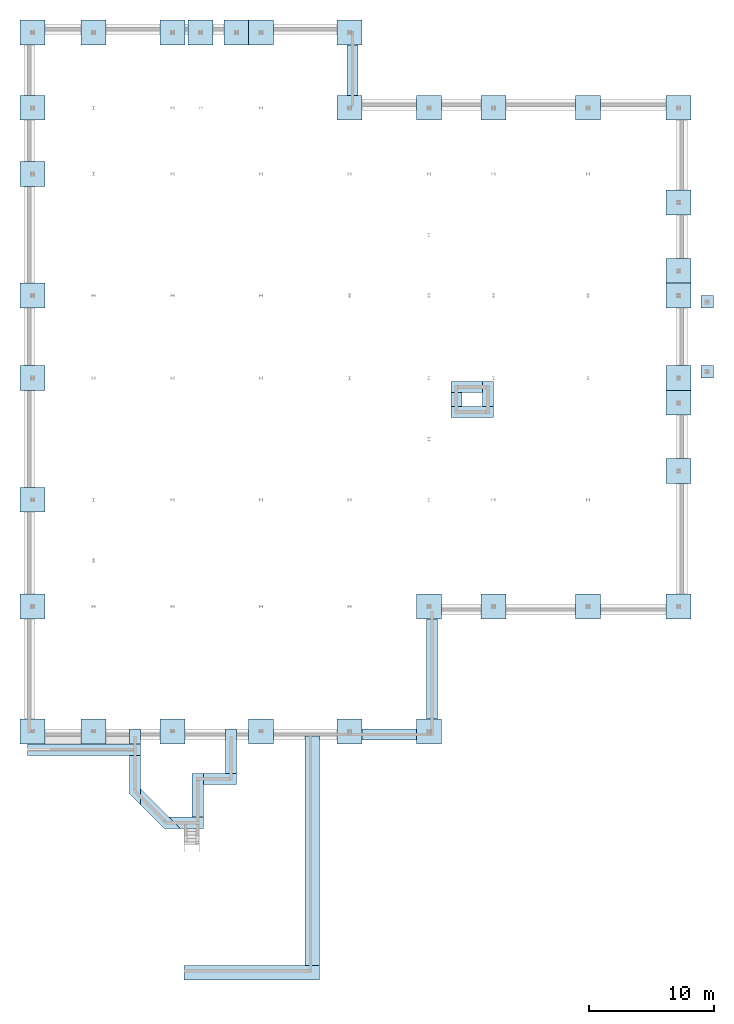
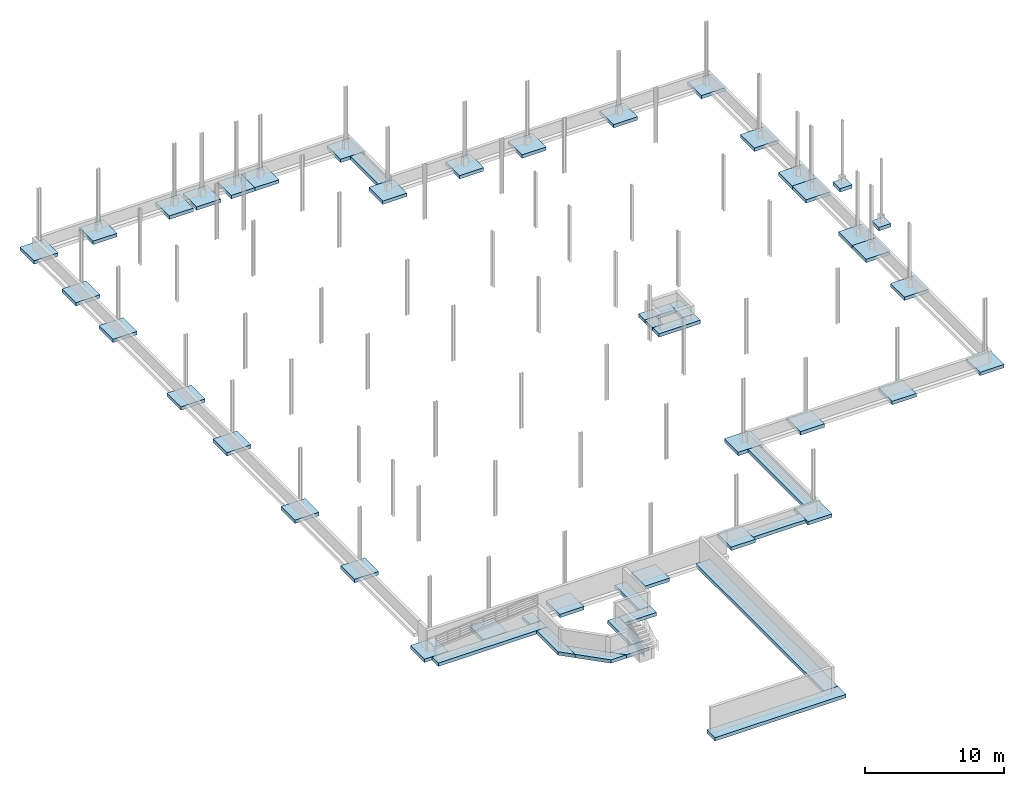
# One storey, part 1 of 11: 52 footings.
"""IFC2X3 building model written with IfcOpenShell, lengths in metres."""

from ifc_helpers import new_model, entity, si_unit, converted_unit, frame, frame_2d, origin, origin_2d_with_axis, place, context, project, spatial, polyline, rectangle, outline, extrude, face_set, surface_model, element, save


model = new_model("IFC2X3")

# Units and contexts
model_context = context("Model", 3, precision=1e-09, world=origin())
plan_context = context("Plan", 3, precision=1e-09, world=origin())
ifc_project = project(units=[si_unit("LENGTHUNIT", "METRE"), si_unit("AREAUNIT", "SQUARE_METRE"), si_unit("VOLUMEUNIT", "CUBIC_METRE"), converted_unit("PLANEANGLEUNIT", "DEGREE", entity("IfcRatioMeasure", 0.01745329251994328), si_unit("PLANEANGLEUNIT", "RADIAN"), dimensions=[0, 0, 0, 0, 0, 0, 0]), si_unit("TIMEUNIT", "SECOND")], contexts=[model_context, plan_context])

# Site, building, storey
site_placement = place(None, origin())
site = spatial("IfcSite", under=ifc_project, at=site_placement, Name="Default", CompositionType="ELEMENT")
building_placement = place(site_placement, origin())
building = spatial("IfcBuilding", under=site, at=building_placement, CompositionType="ELEMENT")
storey_placement = place(building_placement, frame((0.0, 0.0, -1.0)))
storey = spatial("IfcBuildingStorey", under=building, at=storey_placement, Name="TOF Footing", CompositionType="ELEMENT", Elevation=-1.000000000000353)

# Footings
footing_1_placement = place(storey_placement, origin())
element("IfcFooting", 1, at=footing_1_placement, inside=storey, Name="Wall Foundation:Bearing Footing - 900 x 300", ObjectType="Wall Foundation:Bearing Footing - 900 x 300", PredefinedType="STRIP_FOOTING", context=model_context, shape_type="SweptSolid", body=[
    extrude(rectangle(XDim=4.050000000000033, YDim=0.899999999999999, at=origin_2d_with_axis()), frame((-26.19200000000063, 53.11500000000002, -0.299999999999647), z_axis=(0.0, 0.0, 1.0), x_axis=(0.0, 1.0, 0.0)), (0.0, 0.0, 1.0), 0.3000000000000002),
])
footing_2_placement = place(storey_placement, origin())
element("IfcFooting", 2, at=footing_2_placement, inside=storey, Name="Wall Foundation:Bearing Footing - 900 x 300", ObjectType="Wall Foundation:Bearing Footing - 900 x 300", PredefinedType="STRIP_FOOTING", context=model_context, shape_type="SweptSolid", body=[
    extrude(rectangle(XDim=3.435200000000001, YDim=0.899999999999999, at=frame_2d((0.0, 0.1499999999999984), x_axis=(1.0, 0.0))), frame((-16.58760000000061, 25.80739999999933, -0.6691999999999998), z_axis=(0.0, 0.0, 1.0), x_axis=(-1.0, 0.0, 0.0)), (0.0, 0.0, 1.0), 0.3),
])
footing_3_placement = place(storey_placement, origin())
element("IfcFooting", 3, at=footing_3_placement, inside=storey, Name="Wall Foundation:Bearing Footing - 900 x 300", ObjectType="Wall Foundation:Bearing Footing - 900 x 300", PredefinedType="STRIP_FOOTING", context=model_context, shape_type="SweptSolid", body=[
    extrude(rectangle(XDim=2.535200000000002, YDim=0.899999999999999, at=frame_2d((0.0735199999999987, 0.089999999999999), x_axis=(1.0, 0.0))), frame((-17.11112000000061, 27.58189999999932, -0.6692)), (0.0, 0.0, 1.0), 0.3),
])
footing_4_placement = place(storey_placement, origin())
element("IfcFooting", 4, at=footing_4_placement, inside=storey, Name="Wall Foundation:Bearing Footing - 900 x 300", ObjectType="Wall Foundation:Bearing Footing - 900 x 300", PredefinedType="STRIP_FOOTING", context=model_context, shape_type="SweptSolid", body=[
    extrude(rectangle(XDim=2.014500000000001, YDim=0.9000000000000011, at=frame_2d((0.02144999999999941, 0.09000000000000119), x_axis=(1.0, 0.0))), frame((-15.41000000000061, 27.13609999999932, -0.6692), z_axis=(0.0, 0.0, 1.0), x_axis=(0.0, -1.0, 0.0)), (0.0, 0.0, 1.0), 0.3),
])
footing_5_placement = place(storey_placement, origin())
element("IfcFooting", 5, at=footing_5_placement, inside=storey, Name="Wall Foundation:Bearing Footing - 900 x 300", ObjectType="Wall Foundation:Bearing Footing - 900 x 300", PredefinedType="STRIP_FOOTING", context=model_context, shape_type="SweptSolid", body=[
    extrude(rectangle(XDim=4.380000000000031, YDim=0.9, at=origin_2d_with_axis()), frame((-23.25000000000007, -0.2480000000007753, -0.299999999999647)), (0.0, 0.0, 1.0), 0.3000000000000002),
])
footing_6_placement = place(storey_placement, origin())
element("IfcFooting", 6, at=footing_6_placement, inside=storey, Name="Wall Foundation:Bearing Footing - 900 x 300", ObjectType="Wall Foundation:Bearing Footing - 900 x 300", PredefinedType="STRIP_FOOTING", context=model_context, shape_type="SweptSolid", body=[
    extrude(rectangle(XDim=8.039999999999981, YDim=0.8999999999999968, at=origin_2d_with_axis()), frame((-19.81200000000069, 5.019999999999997, -0.299999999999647), z_axis=(0.0, 0.0, 1.0), x_axis=(0.0, 1.0, 0.0)), (0.0, 0.0, 1.0), 0.3000000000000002),
])
footing_7_placement = place(storey_placement, origin())
element("IfcFooting", 7, at=footing_7_placement, inside=storey, Name="Wall Foundation:Bearing Footing - 900 x 300", ObjectType="Wall Foundation:Bearing Footing - 900 x 300", PredefinedType="STRIP_FOOTING", context=model_context, shape_type="SweptSolid", body=[
    extrude(rectangle(XDim=1.114499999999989, YDim=0.899999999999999, at=origin_2d_with_axis()), frame((-17.85520000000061, 26.66464999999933, -0.6692), z_axis=(0.0, 0.0, 1.0), x_axis=(0.0, 1.0, 0.0)), (0.0, 0.0, 1.0), 0.3),
])
footing_8_placement = place(storey_placement, origin())
element("IfcFooting", 8, at=footing_8_placement, inside=storey, Name="Wall Foundation:Bearing Footing - 900 x 300", ObjectType="Wall Foundation:Bearing Footing - 900 x 300", PredefinedType="STRIP_FOOTING", context=model_context, shape_type="SweptSolid", body=[
    extrude(outline(polyline([(-1.974055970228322, -1.464939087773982), (-0.7012637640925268, -1.464939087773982), (1.191773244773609, 0.428097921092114), (1.191773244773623, 1.70089012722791), (0.2917732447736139, 0.8008901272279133), (-1.974055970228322, -1.464939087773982)])), frame((-41.7534609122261, -6.582983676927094, -1.215), z_axis=(0.0, 0.0, 1.0), x_axis=(0.0, -1.0, 0.0)), (0.0, 0.0, 1.0), 0.2999999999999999),
])
footing_9_placement = place(storey_placement, origin())
element("IfcFooting", 9, at=footing_9_placement, inside=storey, Name="Wall Foundation:Bearing Footing - 900 x 300", ObjectType="Wall Foundation:Bearing Footing - 900 x 300", PredefinedType="STRIP_FOOTING", context=model_context, shape_type="SweptSolid", body=[
    extrude(rectangle(XDim=9.061599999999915, YDim=0.9000000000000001, at=frame_2d((1.210266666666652, 0.0), x_axis=(1.0, 0.0))), frame((-46.53893333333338, -1.467999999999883, -1.215), z_axis=(0.0, 0.0, 1.0), x_axis=(-1.0, 0.0, 0.0)), (0.0, 0.0, 1.0), 0.3),
])
footing_10_placement = place(storey_placement, origin())
element("IfcFooting", 10, at=footing_10_placement, inside=storey, Name="Wall Foundation:Bearing Footing - 900 x 300", ObjectType="Wall Foundation:Bearing Footing - 900 x 300", PredefinedType="STRIP_FOOTING", context=model_context, shape_type="SweptSolid", body=[
    extrude(outline(polyline([(-1.434440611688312, -0.9253237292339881), (-0.1616484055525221, -0.9253237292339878), (1.168425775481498, 0.4047504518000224), (0.5320296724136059, 1.041146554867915), (-0.1043664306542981, 0.4047504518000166), (-1.434440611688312, -0.9253237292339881)])), frame((-39.28396541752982, -7.234756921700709, -1.215), z_axis=(0.0, 0.0, 1.0), x_axis=(0.7071067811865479, -0.7071067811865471, 0.0)), (0.0, 0.0, 1.0), 0.3),
])
footing_11_placement = place(storey_placement, frame((-44.11840000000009, -5.881719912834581, -1.215)))
element("IfcFooting", 11, at=footing_11_placement, inside=storey, Name="Wall Foundation:Bearing Footing - 900 x 300", ObjectType="Wall Foundation:Bearing Footing - 900 x 300", PredefinedType="STRIP_FOOTING", context=model_context, shape_type="SurfaceModel", body=[
    surface_model("IfcFaceBasedSurfaceModel", [(0.0, 0.9000000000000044, 0.3000000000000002), (0.9000000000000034, 0.0, 0.3000000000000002), (0.9000000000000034, 1.272792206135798, 0.3000000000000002), (0.900000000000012, 3.963719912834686, 0.3000000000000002), (0.0, 3.963719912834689, 0.3000000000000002), (0.900000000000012, 6.08371991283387, 0.3000000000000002), (0.0, 6.083719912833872, 0.3000000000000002), (0.0, 5.183719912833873, 0.3000000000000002), (0.0, 4.86371991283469, 0.3000000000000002), (0.900000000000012, 4.863719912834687, 0.3000000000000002), (0.900000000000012, 5.18371991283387, 0.3000000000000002), (0.0, 0.9000000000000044, 0.0), (0.0, 3.963719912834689, 0.0), (0.0, 4.86371991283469, 0.0), (0.0, 5.183719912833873, 0.0), (0.0, 6.083719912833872, 0.0), (0.9000000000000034, 0.0, 0.0), (0.9000000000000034, 1.272792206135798, 0.0), (0.900000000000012, 3.963719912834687, 0.0), (0.900000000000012, 4.863719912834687, 0.0), (0.900000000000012, 5.18371991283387, 0.0), (0.900000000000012, 6.08371991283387, 0.0)], [face_set([[[0, 1, 2, 3, 4]], [[5, 6, 7, 8, 9, 10]], [[11, 12, 4, 0]], [[6, 7, 8, 13, 14, 15]], [[16, 17, 18, 12, 11]], [[15, 14, 13, 19, 20, 21]], [[1, 16, 17, 18, 3, 2]], [[21, 5, 10, 9, 19, 20]], [[4, 3, 18, 12]], [[9, 19, 13, 8]], [[1, 16, 11, 0]], [[6, 5, 21, 15]]])]),
])
footing_12_placement = place(storey_placement, origin())
element("IfcFooting", 12, at=footing_12_placement, inside=storey, Name="Wall Foundation:Bearing Footing - 900 x 300", ObjectType="Wall Foundation:Bearing Footing - 900 x 300", PredefinedType="STRIP_FOOTING", context=model_context, shape_type="SweptSolid", body=[
    extrude(rectangle(XDim=2.660000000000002, YDim=0.9000000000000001, at=frame_2d((0.08599999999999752, 0.09000000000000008), x_axis=(1.0, 0.0))), frame((-36.75556183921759, -3.717999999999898, -1.215), z_axis=(0.0, 0.0, 1.0), x_axis=(-1.0, 0.0, 0.0)), (0.0, 0.0, 1.0), 0.3),
])
footing_13_placement = place(storey_placement, origin())
element("IfcFooting", 13, at=footing_13_placement, inside=storey, Name="Wall Foundation:Bearing Footing - 900 x 300", ObjectType="Wall Foundation:Bearing Footing - 900 x 300", PredefinedType="STRIP_FOOTING", context=model_context, shape_type="SweptSolid", body=[
    extrude(rectangle(XDim=3.516756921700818, YDim=0.899999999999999, at=frame_2d((0.1716756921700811, -0.0900000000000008), x_axis=(1.0, 0.0))), frame((-38.5315618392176, -4.94470276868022, -1.215), z_axis=(0.0, 0.0, 1.0), x_axis=(0.0, -1.0, 0.0)), (0.0, 0.0, 1.0), 0.3),
])
footing_14_placement = place(storey_placement, origin())
element("IfcFooting", 14, at=footing_14_placement, inside=storey, Name="Wall Foundation:Bearing Footing - 900 x 300", ObjectType="Wall Foundation:Bearing Footing - 900 x 300", PredefinedType="STRIP_FOOTING", context=model_context, shape_type="SweptSolid", body=[
    extrude(rectangle(XDim=3.559999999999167, YDim=0.899999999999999, at=frame_2d((0.2933333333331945, 0.0), x_axis=(1.0, 0.0))), frame((-35.9615618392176, -1.284666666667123, -1.215), z_axis=(0.0, 0.0, 1.0), x_axis=(0.0, -1.0, 0.0)), (0.0, 0.0, 1.0), 0.3),
])
footing_15_placement = place(storey_placement, origin())
element("IfcFooting", 15, at=footing_15_placement, inside=storey, Name="M_Footing-Rectangular:2000 x 2000 x 300mm:2000 x 2000 x 300mm", ObjectType="M_Footing-Rectangular:2000 x 2000 x 300mm", PredefinedType="NOTDEFINED", context=model_context, shape_type="SweptSolid", body=[
    extrude(rectangle(XDim=1.999999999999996, YDim=1.999999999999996, at=frame_2d((-0.1240000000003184, 0.0), x_axis=(1.0, 0.0))), frame((-52.0240000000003, 50.09000000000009, -0.3), z_axis=(0.0, 0.0, 1.0), x_axis=(-1.0, 0.0, 0.0)), (0.0, 0.0, 1.0), 0.3),
])
footing_16_placement = place(storey_placement, origin())
element("IfcFooting", 16, at=footing_16_placement, inside=storey, Name="M_Footing-Rectangular:2000 x 2000 x 300mm:2000 x 2000 x 300mm", ObjectType="M_Footing-Rectangular:2000 x 2000 x 300mm", PredefinedType="NOTDEFINED", context=model_context, shape_type="SweptSolid", body=[
    extrude(rectangle(XDim=1.999999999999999, YDim=1.999999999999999, at=frame_2d((-0.1880000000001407, 0.1879999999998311), x_axis=(1.0, 0.0))), frame((-0.1880000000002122, 10.22799999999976, -0.3), z_axis=(0.0, 0.0, 1.0), x_axis=(-1.0, 0.0, 0.0)), (0.0, 0.0, 1.0), 0.3),
])
footing_17_placement = place(storey_placement, origin())
element("IfcFooting", 17, at=footing_17_placement, inside=storey, Name="M_Footing-Rectangular:2000 x 2000 x 300mm:2000 x 2000 x 300mm", ObjectType="M_Footing-Rectangular:2000 x 2000 x 300mm", PredefinedType="NOTDEFINED", context=model_context, shape_type="SweptSolid", body=[
    extrude(rectangle(XDim=1.999999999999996, YDim=2.0, at=frame_2d((-0.1240000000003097, 0.0), x_axis=(1.0, 0.0))), frame((-52.02400000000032, 35.00999999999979, -0.3), z_axis=(0.0, 0.0, 1.0), x_axis=(-1.0, 0.0, 0.0)), (0.0, 0.0, 1.0), 0.3),
])
footing_18_placement = place(storey_placement, origin())
element("IfcFooting", 18, at=footing_18_placement, inside=storey, Name="Wall Foundation:Retaining Footing - 600 x 300 x 300", ObjectType="Wall Foundation:Retaining Footing - 600 x 300 x 300", PredefinedType="STRIP_FOOTING", context=model_context, shape_type="SweptSolid", body=[
    extrude(rectangle(XDim=10.89500000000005, YDim=1.164000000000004, at=frame_2d((0.8566999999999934, 0.1164000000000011), x_axis=(1.0, 0.0))), frame((-33.4353618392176, -19.26110302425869, -1.215), z_axis=(0.0, 0.0, 1.0), x_axis=(-1.0, 0.0, 0.0)), (0.0, 0.0, 1.0), 0.3),
])
footing_19_placement = place(storey_placement, origin())
element("IfcFooting", 19, at=footing_19_placement, inside=storey, Name="M_Footing-Rectangular:2000 x 2000 x 300mm:2000 x 2000 x 300mm", ObjectType="M_Footing-Rectangular:2000 x 2000 x 300mm", PredefinedType="NOTDEFINED", context=model_context, shape_type="SweptSolid", body=[
    extrude(rectangle(XDim=1.999999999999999, YDim=1.999999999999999, at=frame_2d((0.0, -0.1240000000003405), x_axis=(1.0, 0.0))), frame((-7.280000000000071, 9.915999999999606, -0.3), z_axis=(0.0, 0.0, 1.0), x_axis=(-1.0, 0.0, 0.0)), (0.0, 0.0, 1.0), 0.3),
])
footing_20_placement = place(storey_placement, origin())
element("IfcFooting", 20, at=footing_20_placement, inside=storey, Name="M_Footing-Rectangular:2000 x 2000 x 300mm:2000 x 2000 x 300mm", ObjectType="M_Footing-Rectangular:2000 x 2000 x 300mm", PredefinedType="NOTDEFINED", context=model_context, shape_type="SweptSolid", body=[
    extrude(rectangle(XDim=1.999999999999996, YDim=1.999999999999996, at=frame_2d((0.0, 0.123999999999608), x_axis=(1.0, 0.0))), frame((-47.0, 56.26399999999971, -0.3), z_axis=(0.0, 0.0, 1.0), x_axis=(-1.0, 0.0, 0.0)), (0.0, 0.0, 1.0), 0.3),
])
footing_21_placement = place(storey_placement, origin())
element("IfcFooting", 21, at=footing_21_placement, inside=storey, Name="M_Footing-Rectangular:2000 x 2000 x 300mm:2000 x 2000 x 300mm", ObjectType="M_Footing-Rectangular:2000 x 2000 x 300mm", PredefinedType="NOTDEFINED", context=model_context, shape_type="SweptSolid", body=[
    extrude(rectangle(XDim=1.999999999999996, YDim=1.999999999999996, at=frame_2d((-0.1240000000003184, 0.0), x_axis=(1.0, 0.0))), frame((-52.02400000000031, 44.78000000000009, -0.3), z_axis=(0.0, 0.0, 1.0), x_axis=(-1.0, 0.0, 0.0)), (0.0, 0.0, 1.0), 0.3),
])
footing_22_placement = place(storey_placement, origin())
element("IfcFooting", 22, at=footing_22_placement, inside=storey, Name="M_Footing-Rectangular:2000 x 2000 x 300mm:2000 x 2000 x 300mm", ObjectType="M_Footing-Rectangular:2000 x 2000 x 300mm", PredefinedType="NOTDEFINED", context=model_context, shape_type="SweptSolid", body=[
    extrude(rectangle(XDim=2.0, YDim=1.999999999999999, at=frame_2d((0.0, -0.1240000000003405), x_axis=(1.0, 0.0))), frame((-14.87997499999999, 9.91599999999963, -0.3), z_axis=(0.0, 0.0, 1.0), x_axis=(-1.0, 0.0, 0.0)), (0.0, 0.0, 1.0), 0.3),
])
footing_23_placement = place(storey_placement, origin())
element("IfcFooting", 23, at=footing_23_placement, inside=storey, Name="M_Footing-Rectangular:2000 x 2000 x 300mm:2000 x 2000 x 300mm", ObjectType="M_Footing-Rectangular:2000 x 2000 x 300mm", PredefinedType="NOTDEFINED", context=model_context, shape_type="SweptSolid", body=[
    extrude(rectangle(XDim=2.0, YDim=2.0, at=frame_2d((0.0, -0.1240000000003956), x_axis=(1.0, 0.0))), frame((-33.55000000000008, -0.1240000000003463, -1.215000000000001), z_axis=(0.0, 0.0, 1.0), x_axis=(-1.0, 0.0, 0.0)), (0.0, 0.0, 1.0), 0.3),
])
footing_24_placement = place(storey_placement, origin())
element("IfcFooting", 24, at=footing_24_placement, inside=storey, Name="M_Footing-Rectangular:2000 x 2000 x 300mm:2000 x 2000 x 300mm", ObjectType="M_Footing-Rectangular:2000 x 2000 x 300mm", PredefinedType="NOTDEFINED", context=model_context, shape_type="SweptSolid", body=[
    extrude(rectangle(XDim=1.981244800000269, YDim=2.0, at=frame_2d((0.3302074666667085, -0.0826666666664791), x_axis=(1.0, 0.0))), frame((0.08266666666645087, 37.33082986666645, -0.3), z_axis=(0.0, 0.0, 1.0), x_axis=(0.0, -1.0, 0.0)), (0.0, 0.0, 1.0), 0.3),
])
footing_25_placement = place(storey_placement, origin())
element("IfcFooting", 25, at=footing_25_placement, inside=storey, Name="M_Footing-Rectangular:2000 x 2000 x 300mm:2000 x 2000 x 300mm", ObjectType="M_Footing-Rectangular:2000 x 2000 x 300mm", PredefinedType="NOTDEFINED", context=model_context, shape_type="SweptSolid", body=[
    extrude(rectangle(XDim=1.999999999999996, YDim=1.999999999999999, at=frame_2d((-0.1240000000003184, 0.0), x_axis=(1.0, 0.0))), frame((-52.02400000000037, 10.04000000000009, -0.3), z_axis=(0.0, 0.0, 1.0), x_axis=(-1.0, 0.0, 0.0)), (0.0, 0.0, 1.0), 0.3),
])
footing_26_placement = place(storey_placement, origin())
element("IfcFooting", 26, at=footing_26_placement, inside=storey, Name="M_Footing-Rectangular:2000 x 2000 x 300mm:2000 x 2000 x 300mm", ObjectType="M_Footing-Rectangular:2000 x 2000 x 300mm", PredefinedType="NOTDEFINED", context=model_context, shape_type="SweptSolid", body=[
    extrude(rectangle(XDim=1.999999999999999, YDim=2.0, at=frame_2d((0.08266666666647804, -0.3333333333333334), x_axis=(1.0, 0.0))), frame((0.08266666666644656, 34.67666666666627, -0.3), z_axis=(0.0, 0.0, 1.0), x_axis=(-1.0, 0.0, 0.0)), (0.0, 0.0, 1.0), 0.3),
])
footing_27_placement = place(storey_placement, origin())
element("IfcFooting", 27, at=footing_27_placement, inside=storey, Name="M_Footing-Rectangular:2000 x 2000 x 300mm:2000 x 2000 x 300mm", ObjectType="M_Footing-Rectangular:2000 x 2000 x 300mm", PredefinedType="NOTDEFINED", context=model_context, shape_type="SweptSolid", body=[
    extrude(rectangle(XDim=2.0, YDim=1.999999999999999, at=frame_2d((0.3119999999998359, -0.3120000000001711), x_axis=(1.0, 0.0))), frame((-19.7480000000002, 9.727999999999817, -0.3), z_axis=(0.0, 0.0, 1.0), x_axis=(-1.0, 0.0, 0.0)), (0.0, 0.0, 1.0), 0.3),
])
footing_28_placement = place(storey_placement, origin())
element("IfcFooting", 28, at=footing_28_placement, inside=storey, Name="M_Footing-Rectangular:2000 x 2000 x 300mm:2000 x 2000 x 300mm", ObjectType="M_Footing-Rectangular:2000 x 2000 x 300mm", PredefinedType="NOTDEFINED", context=model_context, shape_type="SweptSolid", body=[
    extrude(rectangle(XDim=1.999999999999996, YDim=1.999999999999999, at=frame_2d((0.3333333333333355, -0.08266666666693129), x_axis=(1.0, 0.0))), frame((-51.56666666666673, -0.08266666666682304, -1.215), z_axis=(0.0, 0.0, 1.0), x_axis=(-1.0, 0.0, 0.0)), (0.0, 0.0, 1.0), 0.3),
])
footing_29_placement = place(storey_placement, origin())
element("IfcFooting", 29, at=footing_29_placement, inside=storey, Name="M_Footing-Rectangular:2000 x 2000 x 300mm:2000 x 2000 x 300mm", ObjectType="M_Footing-Rectangular:2000 x 2000 x 300mm", PredefinedType="NOTDEFINED", context=model_context, shape_type="SweptSolid", body=[
    extrude(rectangle(XDim=1.999999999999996, YDim=2.0, at=frame_2d((-0.124000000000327, 0.0), x_axis=(1.0, 0.0))), frame((-52.02400000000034, 28.37999999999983, -0.3), z_axis=(0.0, 0.0, 1.0), x_axis=(-1.0, 0.0, 0.0)), (0.0, 0.0, 1.0), 0.3),
])
footing_30_placement = place(storey_placement, origin())
element("IfcFooting", 30, at=footing_30_placement, inside=storey, Name="M_Footing-Rectangular:2000 x 2000 x 300mm:2000 x 2000 x 300mm", ObjectType="M_Footing-Rectangular:2000 x 2000 x 300mm", PredefinedType="NOTDEFINED", context=model_context, shape_type="SweptSolid", body=[
    extrude(rectangle(XDim=2.0, YDim=1.999999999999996, at=frame_2d((-0.1880000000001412, -0.1880000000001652), x_axis=(1.0, 0.0))), frame((-0.1880000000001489, 49.90199999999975, -0.3), z_axis=(0.0, 0.0, 1.0), x_axis=(-1.0, 0.0, 0.0)), (0.0, 0.0, 1.0), 0.3),
])
footing_31_placement = place(storey_placement, origin())
element("IfcFooting", 31, at=footing_31_placement, inside=storey, Name="M_Footing-Rectangular:2000 x 2000 x 300mm:2000 x 2000 x 300mm", ObjectType="M_Footing-Rectangular:2000 x 2000 x 300mm", PredefinedType="NOTDEFINED", context=model_context, shape_type="SweptSolid", body=[
    extrude(rectangle(XDim=1.999999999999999, YDim=2.0, at=frame_2d((0.08266666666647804, -0.3333333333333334), x_axis=(1.0, 0.0))), frame((0.08266666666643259, 26.06548246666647, -0.3), z_axis=(0.0, 0.0, 1.0), x_axis=(-1.0, 0.0, 0.0)), (0.0, 0.0, 1.0), 0.3),
])
footing_32_placement = place(storey_placement, origin())
element("IfcFooting", 32, at=footing_32_placement, inside=storey, Name="M_Footing-Rectangular:2000 x 2000 x 300mm:2000 x 2000 x 300mm", ObjectType="M_Footing-Rectangular:2000 x 2000 x 300mm", PredefinedType="NOTDEFINED", context=model_context, shape_type="SweptSolid", body=[
    extrude(rectangle(XDim=1.981184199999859, YDim=2.0, at=frame_2d((0.3301973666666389, -0.0826666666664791), x_axis=(1.0, 0.0))), frame((0.0826666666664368, 28.71960526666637, -0.3), z_axis=(0.0, 0.0, 1.0), x_axis=(0.0, -1.0, 0.0)), (0.0, 0.0, 1.0), 0.3),
])
footing_33_placement = place(storey_placement, origin())
element("IfcFooting", 33, at=footing_33_placement, inside=storey, Name="Wall Foundation:Retaining Footing - 600 x 300 x 300", ObjectType="Wall Foundation:Retaining Footing - 600 x 300 x 300", PredefinedType="STRIP_FOOTING", context=model_context, shape_type="SweptSolid", body=[
    extrude(rectangle(XDim=18.41550302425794, YDim=1.164, at=frame_2d((2.963250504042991, 0.0), x_axis=(1.0, 0.0))), frame((-29.42656183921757, -6.624501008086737, -1.215), z_axis=(0.0, 0.0, 1.0), x_axis=(0.0, -1.0, 0.0)), (0.0, 0.0, 1.0), 0.3),
])
footing_34_placement = place(storey_placement, origin())
element("IfcFooting", 34, at=footing_34_placement, inside=storey, Name="M_Footing-Rectangular:2000 x 2000 x 300mm:2000 x 2000 x 300mm", ObjectType="M_Footing-Rectangular:2000 x 2000 x 300mm", PredefinedType="NOTDEFINED", context=model_context, shape_type="SweptSolid", body=[
    extrude(rectangle(XDim=2.0, YDim=1.999999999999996, at=frame_2d((0.3333333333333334, 0.08266666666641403), x_axis=(1.0, 0.0))), frame((-33.21666666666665, 56.22266666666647, -0.3), z_axis=(0.0, 0.0, 1.0), x_axis=(-1.0, 0.0, 0.0)), (0.0, 0.0, 1.0), 0.3),
])
footing_35_placement = place(storey_placement, origin())
element("IfcFooting", 35, at=footing_35_placement, inside=storey, Name="M_Footing-Rectangular:2000 x 2000 x 300mm:2000 x 2000 x 300mm", ObjectType="M_Footing-Rectangular:2000 x 2000 x 300mm", PredefinedType="NOTDEFINED", context=model_context, shape_type="SweptSolid", body=[
    extrude(rectangle(XDim=1.999999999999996, YDim=1.999999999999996, at=frame_2d((0.187999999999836, -0.1880000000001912), x_axis=(1.0, 0.0))), frame((-51.71200000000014, 55.95199999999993, -0.3), z_axis=(0.0, 0.0, 1.0), x_axis=(-1.0, 0.0, 0.0)), (0.0, 0.0, 1.0), 0.3),
])
footing_36_placement = place(storey_placement, origin())
element("IfcFooting", 36, at=footing_36_placement, inside=storey, Name="M_Footing-Rectangular:2000 x 2000 x 300mm:2000 x 2000 x 300mm", ObjectType="M_Footing-Rectangular:2000 x 2000 x 300mm", PredefinedType="NOTDEFINED", context=model_context, shape_type="SweptSolid", body=[
    extrude(rectangle(XDim=1.999999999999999, YDim=2.0, at=frame_2d((0.1239999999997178, 0.0), x_axis=(1.0, 0.0))), frame((0.1239999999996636, 20.90889399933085, -0.3), z_axis=(0.0, 0.0, 1.0), x_axis=(-1.0, 0.0, 0.0)), (0.0, 0.0, 1.0), 0.3),
])
footing_37_placement = place(storey_placement, origin())
element("IfcFooting", 37, at=footing_37_placement, inside=storey, Name="M_Footing-Rectangular:2000 x 2000 x 300mm:2000 x 2000 x 300mm", ObjectType="M_Footing-Rectangular:2000 x 2000 x 300mm", PredefinedType="NOTDEFINED", context=model_context, shape_type="SweptSolid", body=[
    extrude(rectangle(XDim=1.999999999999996, YDim=2.0, at=frame_2d((-0.1240000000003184, 0.0), x_axis=(1.0, 0.0))), frame((-52.02400000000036, 18.61000000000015, -0.3), z_axis=(0.0, 0.0, 1.0), x_axis=(-1.0, 0.0, 0.0)), (0.0, 0.0, 1.0), 0.3),
])
footing_38_placement = place(storey_placement, origin())
element("IfcFooting", 38, at=footing_38_placement, inside=storey, Name="M_Footing-Rectangular:2000 x 2000 x 300mm:2000 x 2000 x 300mm", ObjectType="M_Footing-Rectangular:2000 x 2000 x 300mm", PredefinedType="NOTDEFINED", context=model_context, shape_type="SweptSolid", body=[
    extrude(rectangle(XDim=2.0, YDim=1.999999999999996, at=frame_2d((0.0, 0.1239999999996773), x_axis=(1.0, 0.0))), frame((-14.87997499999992, 50.21399999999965, -0.3), z_axis=(0.0, 0.0, 1.0), x_axis=(-1.0, 0.0, 0.0)), (0.0, 0.0, 1.0), 0.3),
])
footing_39_placement = place(storey_placement, origin())
element("IfcFooting", 39, at=footing_39_placement, inside=storey, Name="M_Footing-Rectangular:2000 x 2000 x 300mm:2000 x 2000 x 300mm", ObjectType="M_Footing-Rectangular:2000 x 2000 x 300mm", PredefinedType="NOTDEFINED", context=model_context, shape_type="SweptSolid", body=[
    extrude(rectangle(XDim=1.999999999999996, YDim=1.999999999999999, at=frame_2d((0.0, -0.1240000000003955), x_axis=(1.0, 0.0))), frame((-47.0, -0.1240000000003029, -1.215000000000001), z_axis=(0.0, 0.0, 1.0), x_axis=(-1.0, 0.0, 0.0)), (0.0, 0.0, 1.0), 0.3),
])
footing_40_placement = place(storey_placement, origin())
element("IfcFooting", 40, at=footing_40_placement, inside=storey, Name="M_Footing-Rectangular:2000 x 2000 x 300mm:2000 x 2000 x 300mm", ObjectType="M_Footing-Rectangular:2000 x 2000 x 300mm", PredefinedType="NOTDEFINED", context=model_context, shape_type="SweptSolid", body=[
    extrude(rectangle(XDim=1.999999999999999, YDim=1.999999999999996, at=frame_2d((0.1239999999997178, 0.0), x_axis=(1.0, 0.0))), frame((0.1239999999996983, 42.47764480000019, -0.3), z_axis=(0.0, 0.0, 1.0), x_axis=(-1.0, 0.0, 0.0)), (0.0, 0.0, 1.0), 0.3),
])
footing_41_placement = place(storey_placement, origin())
element("IfcFooting", 41, at=footing_41_placement, inside=storey, Name="M_Footing-Rectangular:2000 x 2000 x 300mm:2000 x 2000 x 300mm", ObjectType="M_Footing-Rectangular:2000 x 2000 x 300mm", PredefinedType="NOTDEFINED", context=model_context, shape_type="SweptSolid", body=[
    extrude(rectangle(XDim=2.0, YDim=2.0, at=frame_2d((-0.188000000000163, 0.1879999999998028), x_axis=(1.0, 0.0))), frame((-20.24800000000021, 0.1879999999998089, -0.3), z_axis=(0.0, 0.0, 1.0), x_axis=(-1.0, 0.0, 0.0)), (0.0, 0.0, 1.0), 0.3),
])
footing_42_placement = place(storey_placement, origin())
element("IfcFooting", 42, at=footing_42_placement, inside=storey, Name="M_Footing-Rectangular:2000 x 2000 x 300mm:2000 x 2000 x 300mm", ObjectType="M_Footing-Rectangular:2000 x 2000 x 300mm", PredefinedType="NOTDEFINED", context=model_context, shape_type="SweptSolid", body=[
    extrude(rectangle(XDim=2.0, YDim=1.999999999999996, at=frame_2d((0.0, 0.1239999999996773), x_axis=(1.0, 0.0))), frame((-20.05999999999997, 50.21399999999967, -0.3), z_axis=(0.0, 0.0, 1.0), x_axis=(-1.0, 0.0, 0.0)), (0.0, 0.0, 1.0), 0.3),
])
footing_43_placement = place(storey_placement, origin())
element("IfcFooting", 43, at=footing_43_placement, inside=storey, Name="M_Footing-Rectangular:2000 x 2000 x 300mm:2000 x 2000 x 300mm", ObjectType="M_Footing-Rectangular:2000 x 2000 x 300mm", PredefinedType="NOTDEFINED", context=model_context, shape_type="SweptSolid", body=[
    extrude(rectangle(XDim=2.0, YDim=1.999999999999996, at=frame_2d((0.0, 0.1239999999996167), x_axis=(1.0, 0.0))), frame((-38.38999999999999, 56.26399999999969, -0.3), z_axis=(0.0, 0.0, 1.0), x_axis=(-1.0, 0.0, 0.0)), (0.0, 0.0, 1.0), 0.3),
])
footing_44_placement = place(storey_placement, origin())
element("IfcFooting", 44, at=footing_44_placement, inside=storey, Name="M_Footing-Rectangular:2000 x 2000 x 300mm:2000 x 2000 x 300mm", ObjectType="M_Footing-Rectangular:2000 x 2000 x 300mm", PredefinedType="NOTDEFINED", context=model_context, shape_type="SweptSolid", body=[
    extrude(rectangle(XDim=1.999999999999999, YDim=1.999999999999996, at=frame_2d((0.0, 0.1239999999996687), x_axis=(1.0, 0.0))), frame((-7.280000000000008, 50.21399999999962, -0.3), z_axis=(0.0, 0.0, 1.0), x_axis=(-1.0, 0.0, 0.0)), (0.0, 0.0, 1.0), 0.3),
])
footing_45_placement = place(storey_placement, origin())
element("IfcFooting", 45, at=footing_45_placement, inside=storey, Name="M_Footing-Rectangular:2000 x 2000 x 300mm:2000 x 2000 x 300mm", ObjectType="M_Footing-Rectangular:2000 x 2000 x 300mm", PredefinedType="NOTDEFINED", context=model_context, shape_type="SweptSolid", body=[
    extrude(rectangle(XDim=1.999999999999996, YDim=1.999999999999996, at=frame_2d((0.0, 0.1239999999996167), x_axis=(1.0, 0.0))), frame((-40.65999999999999, 56.2639999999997, -0.3), z_axis=(0.0, 0.0, 1.0), x_axis=(-1.0, 0.0, 0.0)), (0.0, 0.0, 1.0), 0.3),
])
footing_46_placement = place(storey_placement, origin())
element("IfcFooting", 46, at=footing_46_placement, inside=storey, Name="M_Footing-Rectangular:2000 x 2000 x 300mm:2000 x 2000 x 300mm", ObjectType="M_Footing-Rectangular:2000 x 2000 x 300mm", PredefinedType="NOTDEFINED", context=model_context, shape_type="SweptSolid", body=[
    extrude(rectangle(XDim=1.999999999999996, YDim=1.999999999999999, at=frame_2d((0.0, -0.1240000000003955), x_axis=(1.0, 0.0))), frame((-40.66000000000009, -0.1240000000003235, -1.215000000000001), z_axis=(0.0, 0.0, 1.0), x_axis=(-1.0, 0.0, 0.0)), (0.0, 0.0, 1.0), 0.3),
])
footing_47_placement = place(storey_placement, origin())
element("IfcFooting", 47, at=footing_47_placement, inside=storey, Name="M_Footing-Rectangular:2000 x 2000 x 300mm:2000 x 2000 x 300mm", ObjectType="M_Footing-Rectangular:2000 x 2000 x 300mm", PredefinedType="NOTDEFINED", context=model_context, shape_type="SweptSolid", body=[
    extrude(rectangle(XDim=2.0, YDim=1.999999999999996, at=frame_2d((0.3119999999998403, 0.3119999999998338), x_axis=(1.0, 0.0))), frame((-26.12800000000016, 50.40199999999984, -0.3), z_axis=(0.0, 0.0, 1.0), x_axis=(-1.0, 0.0, 0.0)), (0.0, 0.0, 1.0), 0.3),
])
footing_48_placement = place(storey_placement, origin())
element("IfcFooting", 48, at=footing_48_placement, inside=storey, Name="M_Footing-Rectangular:2000 x 2000 x 300mm:2000 x 2000 x 300mm", ObjectType="M_Footing-Rectangular:2000 x 2000 x 300mm", PredefinedType="NOTDEFINED", context=model_context, shape_type="SweptSolid", body=[
    extrude(rectangle(XDim=2.0, YDim=2.0, at=frame_2d((0.3333333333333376, -0.08266666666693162), x_axis=(1.0, 0.0))), frame((-26.10666666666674, -0.082666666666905, -0.3), z_axis=(0.0, 0.0, 1.0), x_axis=(-1.0, 0.0, 0.0)), (0.0, 0.0, 1.0), 0.3),
])
footing_49_placement = place(storey_placement, origin())
element("IfcFooting", 49, at=footing_49_placement, inside=storey, Name="M_Footing-Rectangular:2000 x 2000 x 300mm:2000 x 2000 x 300mm", ObjectType="M_Footing-Rectangular:2000 x 2000 x 300mm", PredefinedType="NOTDEFINED", context=model_context, shape_type="SweptSolid", body=[
    extrude(rectangle(XDim=1.960000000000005, YDim=1.999999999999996, at=frame_2d((0.3266666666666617, -0.08266666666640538), x_axis=(1.0, 0.0))), frame((-35.85666666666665, 56.22266666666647, -0.3)), (0.0, 0.0, 1.0), 0.3),
])
footing_50_placement = place(storey_placement, origin())
element("IfcFooting", 50, at=footing_50_placement, inside=storey, Name="M_Footing-Rectangular:1000 x 1000 x 300mm:1000 x 1000 x 300mm", ObjectType="M_Footing-Rectangular:1000 x 1000 x 300mm", PredefinedType="NOTDEFINED", context=model_context, shape_type="SweptSolid", body=[
    extrude(rectangle(XDim=0.9999999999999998, YDim=0.9999999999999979, at=origin_2d_with_axis()), frame((2.284999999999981, 34.49499999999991, -0.3), z_axis=(0.0, 0.0, 1.0), x_axis=(-1.0, 0.0, 0.0)), (0.0, 0.0, 1.0), 0.3),
])
footing_51_placement = place(storey_placement, origin())
element("IfcFooting", 51, at=footing_51_placement, inside=storey, Name="M_Footing-Rectangular:2000 x 2000 x 300mm:2000 x 2000 x 300mm", ObjectType="M_Footing-Rectangular:2000 x 2000 x 300mm", PredefinedType="NOTDEFINED", context=model_context, shape_type="SweptSolid", body=[
    extrude(rectangle(XDim=2.0, YDim=1.999999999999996, at=frame_2d((-0.188000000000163, -0.1880000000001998), x_axis=(1.0, 0.0))), frame((-26.62800000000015, 55.95199999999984, -0.3), z_axis=(0.0, 0.0, 1.0), x_axis=(-1.0, 0.0, 0.0)), (0.0, 0.0, 1.0), 0.3),
])
footing_52_placement = place(storey_placement, origin())
element("IfcFooting", 52, at=footing_52_placement, inside=storey, Name="M_Footing-Rectangular:1000 x 1000 x 300mm:1000 x 1000 x 300mm", ObjectType="M_Footing-Rectangular:1000 x 1000 x 300mm", PredefinedType="NOTDEFINED", context=model_context, shape_type="SweptSolid", body=[
    extrude(rectangle(XDim=0.9999999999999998, YDim=0.9999999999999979, at=origin_2d_with_axis()), frame((2.284999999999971, 28.89499999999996, -0.3), z_axis=(0.0, 0.0, 1.0), x_axis=(-1.0, 0.0, 0.0)), (0.0, 0.0, 1.0), 0.3),
])

save(model, "model.ifc")
